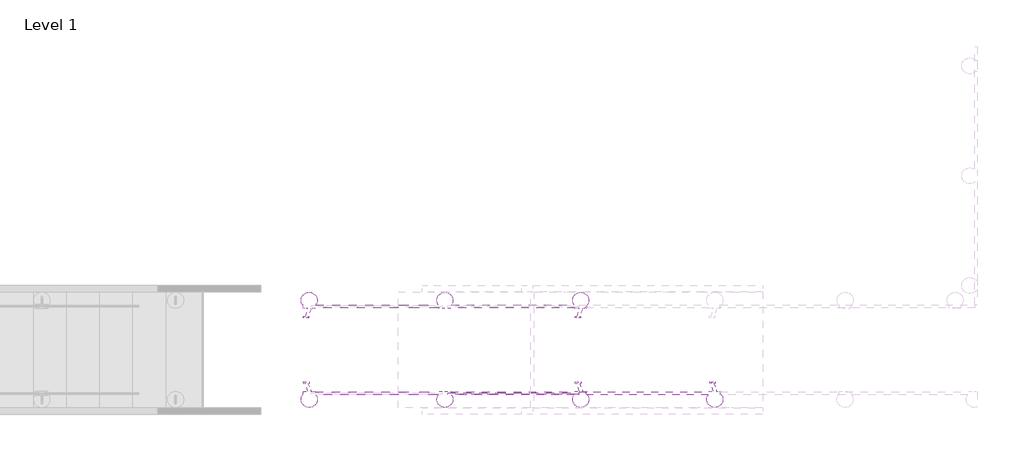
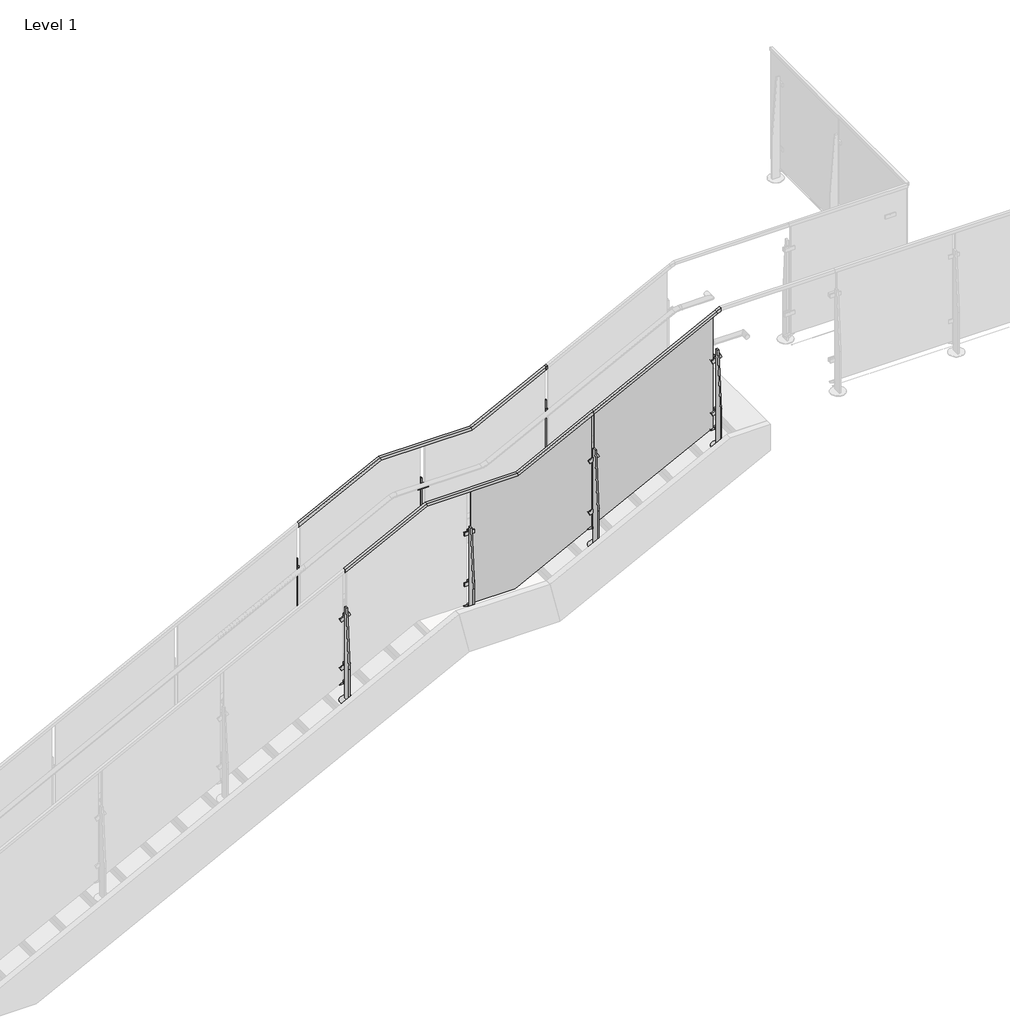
# One storey, part 7 of 37: 4 railings.
"""IFC4 building model written with IfcOpenShell, lengths in millimetres."""

from ifc_helpers import new_model, si_unit, point, frame, frame_2d, origin, place, context, project, spatial, polyline, circle_curve, trimmed, segment, composite_curve, outline, extrude, faceted_brep, transform, mapped, element, save
from components import baluster_landing_panel_viva_solo_upper_standard_glass_fb48f398

model = new_model("IFC4")

# Units and contexts
model_context = context("Model", 3, world=origin())
ifc_project = project(units=[si_unit("LENGTHUNIT", "METRE", prefix="MILLI")], contexts=[model_context])

# Site, building, storey
site = spatial("IfcSite", under=ifc_project)
building = spatial("IfcBuilding", under=site)
storey = spatial("IfcBuildingStorey", under=building, Name="Level 1", Elevation=0.0)

# Railings
placement = place(None, origin())
element("IfcRailing", 1, ObjectType="VIVA-SOLO-Glass-Coor Mount-Landing", at=placement, inside=storey, context=model_context, shape_type="SolidModel", body=[
    faceted_brep([(5228.4873344, -5595.3778686, 2882.4016967), (5228.4873344, -5573.1528686, 2882.4016967), (5228.4873344, -5573.1528686, 2853.9005081), (5228.4873344, -5577.9153686, 2853.9005081), (5228.4873344, -5577.9153686, 2877.0577238), (5228.4873344, -5590.6153686, 2877.0577238), (5228.4873344, -5590.6153686, 2853.9005081), (5228.4873344, -5595.3778686, 2853.9005081), (5926.9873344, -5595.3778686, 3237.9478261), (5926.9873344, -5573.1528686, 3237.9478261), (5933.0798778, -5573.1528686, 3212.5478261), (5933.0798778, -5577.9153686, 3212.5478261), (5928.1296863, -5577.9153686, 3233.1853261), (5928.1296863, -5590.6153686, 3233.1853261), (5933.0798778, -5590.6153686, 3212.5478261), (5933.0798778, -5595.3778686, 3212.5478261), (6708.0373344, -5595.3778686, 3237.9478261), (6708.0373344, -5573.1528686, 3237.9478261), (6714.1298778, -5573.1528686, 3212.5478261), (6714.1298778, -5577.9153686, 3212.5478261), (6709.1796863, -5577.9153686, 3233.1853261), (6709.1796863, -5590.6153686, 3233.1853261), (6714.1298778, -5590.6153686, 3212.5478261), (6714.1298778, -5595.3778686, 3212.5478261), (7362.0873344, -5595.3778686, 3570.8682927), (7362.0873344, -5595.3778686, 3542.3671041), (7362.0873344, -5590.6153686, 3542.3671041), (7362.0873344, -5590.6153686, 3565.5243198), (7362.0873344, -5577.9153686, 3565.5243198), (7362.0873344, -5577.9153686, 3542.3671041), (7362.0873344, -5573.1528686, 3542.3671041), (7362.0873344, -5573.1528686, 3570.8682927)], [[[0, 1, 2, 3, 4, 5, 6, 7]], [[1, 0, 8, 9]], [[2, 1, 9, 10]], [[3, 2, 10, 11]], [[4, 3, 11, 12]], [[5, 4, 12, 13]], [[6, 5, 13, 14]], [[7, 6, 14, 15]], [[0, 7, 15, 8]], [[9, 8, 16, 17]], [[10, 9, 17, 18]], [[11, 10, 18, 19]], [[12, 11, 19, 20]], [[13, 12, 20, 21]], [[14, 13, 21, 22]], [[15, 14, 22, 23]], [[8, 15, 23, 16]], [[24, 25, 26, 27, 28, 29, 30, 31]], [[17, 16, 24, 31]], [[18, 17, 31, 30]], [[19, 18, 30, 29]], [[20, 19, 29, 28]], [[21, 20, 28, 27]], [[22, 21, 27, 26]], [[23, 22, 26, 25]], [[16, 23, 25, 24]]]),
    extrude(outline(polyline([(-5600.1403686, 2907.7478261), (-5600.1403686, 2120.3478261), (-5663.6403686, 2120.3478261), (-5663.6403686, 2374.3478261), (-5625.5403686, 2907.7478261), (-5600.1403686, 2907.7478261)])), frame((6288.9373344, 0.0, 0.0), z_axis=(1.0, 0.0, 0.0), x_axis=(0.0, 1.0, 0.0)), (0.0, 0.0, 1.0), 12.7),
    extrude(outline(composite_curve([segment(trimmed(circle_curve(frame_2d((6295.2873344, -5631.8903686)), 63.5), [point((6295.2873344, -5695.3903686))], [point((6295.2873344, -5568.3903686))], False, "CARTESIAN"), True, "CONTINUOUS"), segment(trimmed(circle_curve(frame_2d((6295.2873344, -5631.8903686)), 63.5), [point((6295.2873344, -5568.3903686))], [point((6295.2873344, -5695.3903686))], False, "CARTESIAN"), True, "CONTINUOUS")], self_intersect=False)), frame((0.0, 0.0, 2120.3478261), z_axis=(0.0, 0.0, 1.0), x_axis=(1.0, 0.0, 0.0)), (0.0, 0.0, 1.0), 3.175),
    extrude(outline(polyline([(6250.8373344, -5590.6153686), (6339.7373344, -5590.6153686), (6339.7373344, -5600.1403686), (6250.8373344, -5600.1403686), (6250.8373344, -5590.6153686)])), frame((0.0, 0.0, 2372.3388955), z_axis=(0.0, 0.0, 1.0), x_axis=(1.0, 0.0, 0.0)), (0.0, 0.0, 1.0), 31.75),
    extrude(outline(polyline([(6250.8373344, -5590.6153686), (6339.7373344, -5590.6153686), (6339.7373344, -5600.1403686), (6250.8373344, -5600.1403686), (6250.8373344, -5590.6153686)])), frame((0.0, 0.0, 2831.6470448), z_axis=(0.0, 0.0, 1.0), x_axis=(1.0, 0.0, 0.0)), (0.0, 0.0, 1.0), 31.75),
    extrude(outline(polyline([(6250.8373344, -5568.3903686), (6339.7373344, -5568.3903686), (6339.7373344, -5577.9153686), (6250.8373344, -5577.9153686), (6250.8373344, -5568.3903686)])), frame((0.0, 0.0, 2372.3388955), z_axis=(0.0, 0.0, 1.0), x_axis=(1.0, 0.0, 0.0)), (0.0, 0.0, 1.0), 31.75),
    extrude(outline(polyline([(6250.8373344, -5568.3903686), (6339.7373344, -5568.3903686), (6339.7373344, -5577.9153686), (6250.8373344, -5577.9153686), (6250.8373344, -5568.3903686)])), frame((0.0, 0.0, 2831.6470448), z_axis=(0.0, 0.0, 1.0), x_axis=(1.0, 0.0, 0.0)), (0.0, 0.0, 1.0), 31.75),
    extrude(outline(polyline([(2196.5478261, 6339.7373344), (2196.5478261, 6250.8373344), (2190.1978261, 6250.8373344), (2168.2831774, 6295.2873344), (2190.1978261, 6339.7373344), (2196.5478261, 6339.7373344)])), frame((0.0, -5590.6153686, 0.0), z_axis=(0.0, 1.0, 0.0), x_axis=(0.0, 0.0, 1.0)), (0.0, 0.0, 1.0), 12.7),
    extrude(outline(composite_curve([segment(trimmed(circle_curve(frame_2d((2388.2138955, 6295.2873344)), 6.35), [point((2388.2138955, 6301.6373344))], [point((2388.2138955, 6288.9373344))], False, "CARTESIAN"), True, "CONTINUOUS"), segment(trimmed(circle_curve(frame_2d((2388.2138955, 6295.2873344)), 6.35), [point((2388.2138955, 6288.9373344))], [point((2388.2138955, 6301.6373344))], False, "CARTESIAN"), True, "CONTINUOUS")], self_intersect=False)), frame((0.0, -5590.6153686, 0.0), z_axis=(0.0, 1.0, 0.0), x_axis=(0.0, 0.0, 1.0)), (0.0, 0.0, 1.0), 12.7),
    extrude(outline(composite_curve([segment(trimmed(circle_curve(frame_2d((2847.5220448, 6295.2873344)), 6.35), [point((2847.5220448, 6301.6373344))], [point((2847.5220448, 6288.9373344))], False, "CARTESIAN"), True, "CONTINUOUS"), segment(trimmed(circle_curve(frame_2d((2847.5220448, 6295.2873344)), 6.35), [point((2847.5220448, 6288.9373344))], [point((2847.5220448, 6301.6373344))], False, "CARTESIAN"), True, "CONTINUOUS")], self_intersect=False)), frame((0.0, -5590.6153686, 0.0), z_axis=(0.0, 1.0, 0.0), x_axis=(0.0, 0.0, 1.0)), (0.0, 0.0, 1.0), 12.7),
    extrude(outline(composite_curve([segment(trimmed(circle_curve(frame_2d((2180.6728261, 6295.2873344)), 11.1125), [point((2180.6728261, 6306.3998344))], [point((2180.6728261, 6284.1748344))], False, "CARTESIAN"), True, "CONTINUOUS"), segment(trimmed(circle_curve(frame_2d((2180.6728261, 6295.2873344)), 11.1125), [point((2180.6728261, 6284.1748344))], [point((2180.6728261, 6306.3998344))], False, "CARTESIAN"), True, "CONTINUOUS")], self_intersect=False)), frame((0.0, -5600.1403686, 0.0), z_axis=(0.0, 1.0, 0.0), x_axis=(0.0, 0.0, 1.0)), (0.0, 0.0, 1.0), 25.4),
    extrude(outline(polyline([(-12.7, 0.0), (-12.7, 3.175), (50.8, 65.0875), (61.9125, 65.0875), (61.9125, 34.925), (58.7375, 34.925), (0.0, 3.175), (0.0, 0.0), (-12.7, 0.0)])), frame((7334.458695, -5506.4778686, 3185.7907086), z_axis=(0.8987940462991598, 0.0, 0.4383711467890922), x_axis=(0.0, -1.0, 0.0)), (0.0, 0.0, 1.0), 12.7),
    extrude(outline(polyline([(-5600.1403686, 3240.6682927), (-5600.1403686, 2385.3913043), (-5663.6403686, 2385.3913043), (-5663.6403686, 2707.2682927), (-5625.5403686, 3240.6682927), (-5600.1403686, 3240.6682927)])), frame((7355.7373344, 0.0, 0.0), z_axis=(1.0, 0.0, 0.0), x_axis=(0.0, 1.0, 0.0)), (0.0, 0.0, 1.0), 12.7),
    extrude(outline(polyline([(0.0, -88.9), (0.0, 0.0), (9.525, 0.0), (9.525, -88.9), (0.0, -88.9)])), frame((7408.9978717, -5568.3903686, 3148.8462876), z_axis=(-0.4383711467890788, 0.0, 0.8987940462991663), x_axis=(0.0, -1.0, 0.0)), (0.0, 0.0, 1.0), 31.75),
    extrude(outline(polyline([(0.0, -88.9), (0.0, 0.0), (9.525, 0.0), (9.525, -88.9), (0.0, -88.9)])), frame((7408.9978717, -5590.6153686, 3148.8462876), z_axis=(-0.4383711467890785, 0.0, 0.8987940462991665), x_axis=(0.0, -1.0, 0.0)), (0.0, 0.0, 1.0), 31.75),
    extrude(outline(polyline([(0.0, -88.9), (0.0, 0.0), (9.525, 0.0), (9.525, -88.9), (0.0, -88.9)])), frame((7408.9978717, -5590.6153686, 2681.3942117), z_axis=(-0.43837114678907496, 0.0, 0.8987940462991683), x_axis=(0.0, -1.0, 0.0)), (0.0, 0.0, 1.0), 31.75),
    extrude(outline(polyline([(0.0, -88.9), (0.0, 0.0), (9.525, 0.0), (9.525, -88.9), (0.0, -88.9)])), frame((7408.9978717, -5568.3903686, 2681.3942117), z_axis=(-0.4383711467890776, 0.0, 0.8987940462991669), x_axis=(0.0, -1.0, 0.0)), (0.0, 0.0, 1.0), 31.75),
    extrude(outline(polyline([(2547.9055266, 7397.8492571), (2553.6128688, 7395.0656003), (2514.6416738, 7315.1628096), (2508.9343317, 7317.9464664), (2508.7231733, 7367.5046114), (2547.9055266, 7397.8492571)])), frame((0.0, -5590.6153686, 0.0), z_axis=(0.0, 1.0, 0.0), x_axis=(0.0, 0.0, 1.0)), (0.0, 0.0, 1.0), 12.7),
    extrude(outline(composite_curve([segment(polyline([(0.0, 0.0), (2.8057896, 0.0)]), True, "CONTINUOUS"), segment(trimmed(circle_curve(frame_2d((26.8875078, 8.0765616)), 25.4), [point((2.8057896, 0.0))], [point((8.7901892, -9.7460941))], True, "CARTESIAN"), True, "CONTINUOUS"), segment(polyline([(8.7901892, -9.7460941), (6.4034746, -11.1240644)]), True, "CONTINUOUS"), segment(trimmed(circle_curve(frame_2d((24.5007933, 6.6985913)), 25.4), [point((6.4034746, -11.1240644))], [point((0.0, 0.0))], False, "CARTESIAN"), True, "CONTINUOUS")], self_intersect=False)), frame((7318.5375775, -5506.577115, 3174.9775099), z_axis=(0.8987940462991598, 0.0, 0.4383711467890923), x_axis=(-0.37964054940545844, 0.500000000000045, 0.7783784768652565)), (0.0, 0.0, 1.0), 50.8),
    extrude(outline(composite_curve([segment(trimmed(circle_curve(frame_2d((7362.0873344, -5631.8903686)), 63.5), [point((7362.0873344, -5695.3903686))], [point((7362.0873344, -5568.3903686))], False, "CARTESIAN"), True, "CONTINUOUS"), segment(trimmed(circle_curve(frame_2d((7362.0873344, -5631.8903686)), 63.5), [point((7362.0873344, -5568.3903686))], [point((7362.0873344, -5695.3903686))], False, "CARTESIAN"), True, "CONTINUOUS")], self_intersect=False)), frame((0.0, 0.0, 2385.3913043), z_axis=(0.0, 0.0, 1.0), x_axis=(1.0, 0.0, 0.0)), (0.0, 0.0, 1.0), 3.175),
    extrude(outline(composite_curve([segment(trimmed(circle_curve(frame_2d((2677.2373043, 7362.0873344)), 6.35), [point((2677.2373043, 7368.4373344))], [point((2677.2373043, 7355.7373344))], False, "CARTESIAN"), True, "CONTINUOUS"), segment(trimmed(circle_curve(frame_2d((2677.2373043, 7362.0873344)), 6.35), [point((2677.2373043, 7355.7373344))], [point((2677.2373043, 7368.4373344))], False, "CARTESIAN"), True, "CONTINUOUS")], self_intersect=False)), frame((0.0, -5590.6153686, 0.0), z_axis=(0.0, 1.0, 0.0), x_axis=(0.0, 0.0, 1.0)), (0.0, 0.0, 1.0), 12.7),
    extrude(outline(composite_curve([segment(trimmed(circle_curve(frame_2d((3143.6290456, 7362.0873344)), 6.35), [point((3143.6290456, 7368.4373344))], [point((3143.6290456, 7355.7373344))], False, "CARTESIAN"), True, "CONTINUOUS"), segment(trimmed(circle_curve(frame_2d((3143.6290456, 7362.0873344)), 6.35), [point((3143.6290456, 7355.7373344))], [point((3143.6290456, 7368.4373344))], False, "CARTESIAN"), True, "CONTINUOUS")], self_intersect=False)), frame((0.0, -5590.6153686, 0.0), z_axis=(0.0, 1.0, 0.0), x_axis=(0.0, 0.0, 1.0)), (0.0, 0.0, 1.0), 12.7),
    extrude(outline(composite_curve([segment(trimmed(circle_curve(frame_2d((2519.9181633, 7362.0873344)), 11.1125), [point((2519.9181633, 7373.1998344))], [point((2519.9181633, 7350.9748344))], False, "CARTESIAN"), True, "CONTINUOUS"), segment(trimmed(circle_curve(frame_2d((2519.9181633, 7362.0873344)), 11.1125), [point((2519.9181633, 7350.9748344))], [point((2519.9181633, 7373.1998344))], False, "CARTESIAN"), True, "CONTINUOUS")], self_intersect=False)), frame((0.0, -5600.1403686, 0.0), z_axis=(0.0, 1.0, 0.0), x_axis=(0.0, 0.0, 1.0)), (0.0, 0.0, 1.0), 25.4),
    extrude(outline(polyline([(-12.7, 0.0), (-12.7, 3.175), (50.8, 65.0874999), (61.9125, 65.0874999), (61.9125, 34.9249999), (58.7375, 34.9249999), (0.0, 3.175), (0.0, 0.0), (-12.7, 0.0)])), frame((5200.858695, -5506.4778686, 2497.3241126), z_axis=(0.8987940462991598, 0.0, 0.4383711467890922), x_axis=(0.0, -1.0, 0.0)), (0.0, 0.0, 1.0), 12.7),
    extrude(outline(polyline([(-5600.1403686, 2552.2016967), (-5600.1403686, 1722.7826087), (-5663.6403686, 1722.7826087), (-5663.6403686, 2018.8016967), (-5625.5403686, 2552.2016967), (-5600.1403686, 2552.2016967)])), frame((5222.1373344, 0.0, 0.0), z_axis=(1.0, 0.0, 0.0), x_axis=(0.0, 1.0, 0.0)), (0.0, 0.0, 1.0), 12.7),
    extrude(outline(polyline([(0.0, -88.9), (0.0, 0.0), (9.525, 0.0), (9.525, -88.9), (0.0, -88.9)])), frame((5275.3978717, -5568.3903686, 2460.3796916), z_axis=(-0.4383711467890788, 0.0, 0.8987940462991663), x_axis=(0.0, -1.0, 0.0)), (0.0, 0.0, 1.0), 31.75),
    extrude(outline(polyline([(0.0, -88.9), (0.0, 0.0), (9.525, 0.0), (9.525, -88.9), (0.0, -88.9)])), frame((5275.3978717, -5590.6153686, 2460.3796916), z_axis=(-0.4383711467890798, 0.0, 0.8987940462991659), x_axis=(0.0, -1.0, 0.0)), (0.0, 0.0, 1.0), 31.75),
    extrude(outline(polyline([(0.0, -88.9), (0.0, 0.0), (9.525, 0.0), (9.525, -88.9), (0.0, -88.9)])), frame((5275.3978717, -5590.6153686, 2018.785516), z_axis=(-0.43837114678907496, 0.0, 0.8987940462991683), x_axis=(0.0, -1.0, 0.0)), (0.0, 0.0, 1.0), 31.75),
    extrude(outline(polyline([(0.0, -88.9), (0.0, 0.0), (9.525, 0.0), (9.525, -88.9), (0.0, -88.9)])), frame((5275.3978717, -5568.3903686, 2018.785516), z_axis=(-0.4383711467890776, 0.0, 0.8987940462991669), x_axis=(0.0, -1.0, 0.0)), (0.0, 0.0, 1.0), 31.75),
    extrude(outline(polyline([(1885.2968309, 5264.2492571), (1891.0041731, 5261.4656003), (1852.0329782, 5181.5628096), (1846.325636, 5184.3464664), (1846.1144777, 5233.9046114), (1885.2968309, 5264.2492571)])), frame((0.0, -5590.6153686, 0.0), z_axis=(0.0, 1.0, 0.0), x_axis=(0.0, 0.0, 1.0)), (0.0, 0.0, 1.0), 12.7),
    extrude(outline(composite_curve([segment(polyline([(0.0, 0.0), (2.8057896, 0.0)]), True, "CONTINUOUS"), segment(trimmed(circle_curve(frame_2d((26.8875078, 8.0765616)), 25.4), [point((2.8057896, 0.0))], [point((8.7901892, -9.7460941))], True, "CARTESIAN"), True, "CONTINUOUS"), segment(polyline([(8.7901892, -9.7460941), (6.4034746, -11.1240644)]), True, "CONTINUOUS"), segment(trimmed(circle_curve(frame_2d((24.5007933, 6.6985913)), 25.4), [point((6.4034746, -11.1240644))], [point((0.0, 0.0))], False, "CARTESIAN"), True, "CONTINUOUS")], self_intersect=False)), frame((5184.9375775, -5506.577115, 2486.5109139), z_axis=(0.8987940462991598, 0.0, 0.4383711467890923), x_axis=(-0.37964054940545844, 0.500000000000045, 0.7783784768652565)), (0.0, 0.0, 1.0), 50.8),
    extrude(outline(composite_curve([segment(trimmed(circle_curve(frame_2d((5228.4873344, -5631.8903686)), 63.5), [point((5228.4873344, -5695.3903686))], [point((5228.4873344, -5568.3903686))], False, "CARTESIAN"), True, "CONTINUOUS"), segment(trimmed(circle_curve(frame_2d((5228.4873344, -5631.8903686)), 63.5), [point((5228.4873344, -5568.3903686))], [point((5228.4873344, -5695.3903686))], False, "CARTESIAN"), True, "CONTINUOUS")], self_intersect=False)), frame((0.0, 0.0, 1722.7826087), z_axis=(0.0, 0.0, 1.0), x_axis=(1.0, 0.0, 0.0)), (0.0, 0.0, 1.0), 3.175),
    extrude(outline(composite_curve([segment(trimmed(circle_curve(frame_2d((2014.6286087, 5228.4873344)), 6.35), [point((2014.6286087, 5234.8373344))], [point((2014.6286087, 5222.1373344))], False, "CARTESIAN"), True, "CONTINUOUS"), segment(trimmed(circle_curve(frame_2d((2014.6286087, 5228.4873344)), 6.35), [point((2014.6286087, 5222.1373344))], [point((2014.6286087, 5234.8373344))], False, "CARTESIAN"), True, "CONTINUOUS")], self_intersect=False)), frame((0.0, -5590.6153686, 0.0), z_axis=(0.0, 1.0, 0.0), x_axis=(0.0, 0.0, 1.0)), (0.0, 0.0, 1.0), 12.7),
    extrude(outline(composite_curve([segment(trimmed(circle_curve(frame_2d((2455.1624496, 5228.4873344)), 6.35), [point((2455.1624496, 5234.8373344))], [point((2455.1624496, 5222.1373344))], False, "CARTESIAN"), True, "CONTINUOUS"), segment(trimmed(circle_curve(frame_2d((2455.1624496, 5228.4873344)), 6.35), [point((2455.1624496, 5222.1373344))], [point((2455.1624496, 5234.8373344))], False, "CARTESIAN"), True, "CONTINUOUS")], self_intersect=False)), frame((0.0, -5590.6153686, 0.0), z_axis=(0.0, 1.0, 0.0), x_axis=(0.0, 0.0, 1.0)), (0.0, 0.0, 1.0), 12.7),
    extrude(outline(composite_curve([segment(trimmed(circle_curve(frame_2d((1857.3094676, 5228.4873344)), 11.1125), [point((1857.3094676, 5239.5998344))], [point((1857.3094676, 5217.3748344))], False, "CARTESIAN"), True, "CONTINUOUS"), segment(trimmed(circle_curve(frame_2d((1857.3094676, 5228.4873344)), 11.1125), [point((1857.3094676, 5217.3748344))], [point((1857.3094676, 5239.5998344))], False, "CARTESIAN"), True, "CONTINUOUS")], self_intersect=False)), frame((0.0, -5600.1403686, 0.0), z_axis=(0.0, 1.0, 0.0), x_axis=(0.0, 0.0, 1.0)), (0.0, 0.0, 1.0), 25.4),
])
element("IfcRailing", 2, ObjectType="VIVA-SOLO-Glass-Coor Mount-Stair_Right_Upper", at=placement, inside=storey, context=model_context, shape_type="SolidModel", body=[
    faceted_brep([(7349.3873344, -5595.3778686, 3564.4038176), (7349.3873344, -5573.1528686, 3564.4038176), (7349.3873344, -5573.1528686, 3535.902629), (7349.3873344, -5577.9153686, 3535.902629), (7349.3873344, -5577.9153686, 3559.0598447), (7349.3873344, -5590.6153686, 3559.0598447), (7349.3873344, -5590.6153686, 3535.902629), (7349.3873344, -5595.3778686, 3535.902629), (8416.1873344, -5595.3778686, 4107.4197243), (8416.1873344, -5573.1528686, 4107.4197243), (8427.7094971, -5573.1528686, 4084.7834754), (8427.7094971, -5577.9153686, 4084.7834754), (8418.3477399, -5577.9153686, 4103.1754276), (8418.3477399, -5590.6153686, 4103.1754276), (8427.7094971, -5590.6153686, 4084.7834754), (8427.7094971, -5595.3778686, 4084.7834754), (8455.6367094, -5595.3778686, 4127.5), (8455.6367094, -5595.3778686, 4098.9988114), (8455.6367094, -5590.6153686, 4098.9988114), (8455.6367094, -5590.6153686, 4122.1560271), (8455.6367094, -5577.9153686, 4122.1560271), (8455.6367094, -5577.9153686, 4098.9988114), (8455.6367094, -5573.1528686, 4098.9988114), (8455.6367094, -5573.1528686, 4127.5)], [[[0, 1, 2, 3, 4, 5, 6, 7]], [[1, 0, 8, 9]], [[2, 1, 9, 10]], [[3, 2, 10, 11]], [[4, 3, 11, 12]], [[5, 4, 12, 13]], [[6, 5, 13, 14]], [[7, 6, 14, 15]], [[0, 7, 15, 8]], [[16, 17, 18, 19, 20, 21, 22, 23]], [[9, 8, 16, 23]], [[10, 9, 23, 22]], [[11, 10, 22, 21]], [[12, 11, 21, 20]], [[13, 12, 20, 19]], [[14, 13, 19, 18]], [[15, 14, 18, 17]], [[8, 15, 17, 16]]]),
    extrude(outline(polyline([(4089.1567741, 8391.170381), (3571.9987678, 7375.170381), (2544.2557794, 7375.170381), (3061.4137858, 8391.170381), (4089.1567741, 8391.170381)])), frame((0.0, -5590.6153686, 0.0), z_axis=(0.0, 1.0, 0.0), x_axis=(0.0, 0.0, 1.0)), (0.0, 0.0, 1.0), 12.7),
    extrude(outline(polyline([(-12.7, 0.0), (-12.7, 3.175), (50.8, 65.0875), (61.9125, 65.0875), (61.9125, 34.925), (58.7375, 34.925), (0.0, 3.175), (0.0, 0.0), (-12.7, 0.0)])), frame((8388.558695, -5506.4778686, 3722.3421402), z_axis=(0.8987940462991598, 0.0, 0.4383711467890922), x_axis=(0.0, -1.0, 0.0)), (0.0, 0.0, 1.0), 12.7),
    extrude(outline(polyline([(-5600.1403686, 3777.2197243), (-5600.1403686, 2915.4782609), (-5663.6403686, 2915.4782609), (-5663.6403686, 3243.8197243), (-5625.5403686, 3777.2197243), (-5600.1403686, 3777.2197243)])), frame((8409.8373344, 0.0, 0.0), z_axis=(1.0, 0.0, 0.0), x_axis=(0.0, 1.0, 0.0)), (0.0, 0.0, 1.0), 12.7),
    extrude(outline(polyline([(0.0, -88.9), (0.0, 0.0), (9.525, 0.0), (9.525, -88.9), (0.0, -88.9)])), frame((8463.0978717, -5568.3903686, 3685.3977192), z_axis=(-0.4383711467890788, 0.0, 0.8987940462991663), x_axis=(0.0, -1.0, 0.0)), (0.0, 0.0, 1.0), 31.75),
    extrude(outline(polyline([(0.0, -88.9), (0.0, 0.0), (9.525, 0.0), (9.525, -88.9), (0.0, -88.9)])), frame((8463.0978717, -5590.6153686, 3685.3977192), z_axis=(-0.4383711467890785, 0.0, 0.8987940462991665), x_axis=(0.0, -1.0, 0.0)), (0.0, 0.0, 1.0), 31.75),
    extrude(outline(polyline([(0.0, -88.9), (0.0, 0.0), (9.525, 0.0), (9.525, -88.9), (0.0, -88.9)])), frame((8463.0978717, -5590.6153686, 3211.4811682), z_axis=(-0.43837114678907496, 0.0, 0.8987940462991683), x_axis=(0.0, -1.0, 0.0)), (0.0, 0.0, 1.0), 31.75),
    extrude(outline(polyline([(0.0, -88.9), (0.0, 0.0), (9.525, 0.0), (9.525, -88.9), (0.0, -88.9)])), frame((8463.0978717, -5568.3903686, 3211.4811682), z_axis=(-0.4383711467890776, 0.0, 0.8987940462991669), x_axis=(0.0, -1.0, 0.0)), (0.0, 0.0, 1.0), 31.75),
    extrude(outline(polyline([(3077.9924831, 8451.9492571), (3083.6998253, 8449.1656003), (3044.7286304, 8369.2628096), (3039.0212882, 8372.0464664), (3038.8101298, 8421.6046114), (3077.9924831, 8451.9492571)])), frame((0.0, -5590.6153686, 0.0), z_axis=(0.0, 1.0, 0.0), x_axis=(0.0, 0.0, 1.0)), (0.0, 0.0, 1.0), 12.7),
    extrude(outline(composite_curve([segment(polyline([(0.0, 0.0), (2.8057896, 0.0)]), True, "CONTINUOUS"), segment(trimmed(circle_curve(frame_2d((26.8875078, 8.0765616)), 25.4), [point((2.8057896, 0.0))], [point((8.7901892, -9.7460941))], True, "CARTESIAN"), True, "CONTINUOUS"), segment(polyline([(8.7901892, -9.7460941), (6.4034746, -11.1240644)]), True, "CONTINUOUS"), segment(trimmed(circle_curve(frame_2d((24.5007933, 6.6985913)), 25.4), [point((6.4034746, -11.1240644))], [point((0.0, 0.0))], False, "CARTESIAN"), True, "CONTINUOUS")], self_intersect=False)), frame((8372.6375775, -5506.577115, 3711.5289415), z_axis=(0.8987940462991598, 0.0, 0.4383711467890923), x_axis=(-0.379640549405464, 0.500000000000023, 0.7783784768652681)), (0.0, 0.0, 1.0), 50.8),
    extrude(outline(composite_curve([segment(trimmed(circle_curve(frame_2d((8416.1873344, -5631.8903686)), 63.5), [point((8416.1873344, -5695.3903686))], [point((8416.1873344, -5568.3903686))], False, "CARTESIAN"), True, "CONTINUOUS"), segment(trimmed(circle_curve(frame_2d((8416.1873344, -5631.8903686)), 63.5), [point((8416.1873344, -5568.3903686))], [point((8416.1873344, -5695.3903686))], False, "CARTESIAN"), True, "CONTINUOUS")], self_intersect=False)), frame((0.0, 0.0, 2915.4782609), z_axis=(0.0, 0.0, 1.0), x_axis=(1.0, 0.0, 0.0)), (0.0, 0.0, 1.0), 3.175),
    extrude(outline(composite_curve([segment(trimmed(circle_curve(frame_2d((3207.3242609, 8416.1873344)), 6.35), [point((3207.3242609, 8422.5373344))], [point((3207.3242609, 8409.8373344))], False, "CARTESIAN"), True, "CONTINUOUS"), segment(trimmed(circle_curve(frame_2d((3207.3242609, 8416.1873344)), 6.35), [point((3207.3242609, 8409.8373344))], [point((3207.3242609, 8422.5373344))], False, "CARTESIAN"), True, "CONTINUOUS")], self_intersect=False)), frame((0.0, -5590.6153686, 0.0), z_axis=(0.0, 1.0, 0.0), x_axis=(0.0, 0.0, 1.0)), (0.0, 0.0, 1.0), 12.7),
    extrude(outline(composite_curve([segment(trimmed(circle_curve(frame_2d((3680.1804772, 8416.1873344)), 6.35), [point((3680.1804772, 8422.5373344))], [point((3680.1804772, 8409.8373344))], False, "CARTESIAN"), True, "CONTINUOUS"), segment(trimmed(circle_curve(frame_2d((3680.1804772, 8416.1873344)), 6.35), [point((3680.1804772, 8409.8373344))], [point((3680.1804772, 8422.5373344))], False, "CARTESIAN"), True, "CONTINUOUS")], self_intersect=False)), frame((0.0, -5590.6153686, 0.0), z_axis=(0.0, 1.0, 0.0), x_axis=(0.0, 0.0, 1.0)), (0.0, 0.0, 1.0), 12.7),
    extrude(outline(composite_curve([segment(trimmed(circle_curve(frame_2d((3050.0051198, 8416.1873344)), 11.1125), [point((3050.0051198, 8427.2998344))], [point((3050.0051198, 8405.0748344))], False, "CARTESIAN"), True, "CONTINUOUS"), segment(trimmed(circle_curve(frame_2d((3050.0051198, 8416.1873344)), 11.1125), [point((3050.0051198, 8405.0748344))], [point((3050.0051198, 8427.2998344))], False, "CARTESIAN"), True, "CONTINUOUS")], self_intersect=False)), frame((0.0, -5600.1403686, 0.0), z_axis=(0.0, 1.0, 0.0), x_axis=(0.0, 0.0, 1.0)), (0.0, 0.0, 1.0), 25.4),
])
element("IfcRailing", 3, ObjectType="VIVA-SOLO-Glass-Coor Mount-Landing", at=placement, inside=storey, context=model_context, shape_type="SolidModel", body=[
    faceted_brep([(5228.4873344, -4909.5778686, 2882.4016967), (5228.4873344, -4887.3528686, 2882.4016967), (5228.4873344, -4887.3528686, 2853.9005081), (5228.4873344, -4892.1153686, 2853.9005081), (5228.4873344, -4892.1153686, 2877.0577238), (5228.4873344, -4904.8153686, 2877.0577238), (5228.4873344, -4904.8153686, 2853.9005081), (5228.4873344, -4909.5778686, 2853.9005081), (5926.9873344, -4909.5778686, 3237.9478261), (5926.9873344, -4887.3528686, 3237.9478261), (5933.0798778, -4887.3528686, 3212.5478261), (5933.0798778, -4892.1153686, 3212.5478261), (5928.1296863, -4892.1153686, 3233.1853261), (5928.1296863, -4904.8153686, 3233.1853261), (5933.0798778, -4904.8153686, 3212.5478261), (5933.0798778, -4909.5778686, 3212.5478261), (6708.0373344, -4909.5778686, 3237.9478261), (6708.0373344, -4887.3528686, 3237.9478261), (6714.1298778, -4887.3528686, 3212.5478261), (6714.1298778, -4892.1153686, 3212.5478261), (6709.1796863, -4892.1153686, 3233.1853261), (6709.1796863, -4904.8153686, 3233.1853261), (6714.1298778, -4904.8153686, 3212.5478261), (6714.1298778, -4909.5778686, 3212.5478261), (7362.0873344, -4909.5778686, 3570.8682927), (7362.0873344, -4909.5778686, 3542.3671041), (7362.0873344, -4904.8153686, 3542.3671041), (7362.0873344, -4904.8153686, 3565.5243198), (7362.0873344, -4892.1153686, 3565.5243198), (7362.0873344, -4892.1153686, 3542.3671041), (7362.0873344, -4887.3528686, 3542.3671041), (7362.0873344, -4887.3528686, 3570.8682927)], [[[0, 1, 2, 3, 4, 5, 6, 7]], [[1, 0, 8, 9]], [[2, 1, 9, 10]], [[3, 2, 10, 11]], [[4, 3, 11, 12]], [[5, 4, 12, 13]], [[6, 5, 13, 14]], [[7, 6, 14, 15]], [[0, 7, 15, 8]], [[9, 8, 16, 17]], [[10, 9, 17, 18]], [[11, 10, 18, 19]], [[12, 11, 19, 20]], [[13, 12, 20, 21]], [[14, 13, 21, 22]], [[15, 14, 22, 23]], [[8, 15, 23, 16]], [[24, 25, 26, 27, 28, 29, 30, 31]], [[17, 16, 24, 31]], [[18, 17, 31, 30]], [[19, 18, 30, 29]], [[20, 19, 29, 28]], [[21, 20, 28, 27]], [[22, 21, 27, 26]], [[23, 22, 26, 25]], [[16, 23, 25, 24]]]),
    extrude(outline(polyline([(-4882.5903686, 2907.7478261), (-4857.1903686, 2907.7478261), (-4819.0903686, 2374.3478261), (-4819.0903686, 2120.3478261), (-4882.5903686, 2120.3478261), (-4882.5903686, 2907.7478261)])), frame((6288.9373344, 0.0, 0.0), z_axis=(1.0, 0.0, 0.0), x_axis=(0.0, 1.0, 0.0)), (0.0, 0.0, 1.0), 12.7),
    extrude(outline(composite_curve([segment(trimmed(circle_curve(frame_2d((6295.2873344, -4850.8403686)), 63.5), [point((6295.2873344, -4787.3403686))], [point((6295.2873344, -4914.3403686))], False, "CARTESIAN"), True, "CONTINUOUS"), segment(trimmed(circle_curve(frame_2d((6295.2873344, -4850.8403686)), 63.5), [point((6295.2873344, -4914.3403686))], [point((6295.2873344, -4787.3403686))], False, "CARTESIAN"), True, "CONTINUOUS")], self_intersect=False)), frame((0.0, 0.0, 2120.3478261), z_axis=(0.0, 0.0, 1.0), x_axis=(1.0, 0.0, 0.0)), (0.0, 0.0, 1.0), 3.175),
    extrude(outline(polyline([(6250.8373344, -4892.1153686), (6250.8373344, -4882.5903686), (6339.7373344, -4882.5903686), (6339.7373344, -4892.1153686), (6250.8373344, -4892.1153686)])), frame((0.0, 0.0, 2372.3388955), z_axis=(0.0, 0.0, 1.0), x_axis=(1.0, 0.0, 0.0)), (0.0, 0.0, 1.0), 31.75),
    extrude(outline(polyline([(6250.8373344, -4892.1153686), (6250.8373344, -4882.5903686), (6339.7373344, -4882.5903686), (6339.7373344, -4892.1153686), (6250.8373344, -4892.1153686)])), frame((0.0, 0.0, 2831.6470448), z_axis=(0.0, 0.0, 1.0), x_axis=(1.0, 0.0, 0.0)), (0.0, 0.0, 1.0), 31.75),
    extrude(outline(polyline([(6250.8373344, -4914.3403686), (6250.8373344, -4904.8153686), (6339.7373344, -4904.8153686), (6339.7373344, -4914.3403686), (6250.8373344, -4914.3403686)])), frame((0.0, 0.0, 2372.3388955), z_axis=(0.0, 0.0, 1.0), x_axis=(1.0, 0.0, 0.0)), (0.0, 0.0, 1.0), 31.75),
    extrude(outline(polyline([(6250.8373344, -4914.3403686), (6250.8373344, -4904.8153686), (6339.7373344, -4904.8153686), (6339.7373344, -4914.3403686), (6250.8373344, -4914.3403686)])), frame((0.0, 0.0, 2831.6470448), z_axis=(0.0, 0.0, 1.0), x_axis=(1.0, 0.0, 0.0)), (0.0, 0.0, 1.0), 31.75),
    extrude(outline(polyline([(2196.5478261, 6339.7373344), (2196.5478261, 6250.8373344), (2190.1978261, 6250.8373344), (2168.2831774, 6295.2873344), (2190.1978261, 6339.7373344), (2196.5478261, 6339.7373344)])), frame((0.0, -4904.8153686, 0.0), z_axis=(0.0, 1.0, 0.0), x_axis=(0.0, 0.0, 1.0)), (0.0, 0.0, 1.0), 12.7),
    extrude(outline(composite_curve([segment(trimmed(circle_curve(frame_2d((2388.2138955, 6295.2873344)), 6.35), [point((2388.2138955, 6301.6373344))], [point((2388.2138955, 6288.9373344))], False, "CARTESIAN"), True, "CONTINUOUS"), segment(trimmed(circle_curve(frame_2d((2388.2138955, 6295.2873344)), 6.35), [point((2388.2138955, 6288.9373344))], [point((2388.2138955, 6301.6373344))], False, "CARTESIAN"), True, "CONTINUOUS")], self_intersect=False)), frame((0.0, -4904.8153686, 0.0), z_axis=(0.0, 1.0, 0.0), x_axis=(0.0, 0.0, 1.0)), (0.0, 0.0, 1.0), 12.7),
    extrude(outline(composite_curve([segment(trimmed(circle_curve(frame_2d((2847.5220448, 6295.2873344)), 6.35), [point((2847.5220448, 6301.6373344))], [point((2847.5220448, 6288.9373344))], False, "CARTESIAN"), True, "CONTINUOUS"), segment(trimmed(circle_curve(frame_2d((2847.5220448, 6295.2873344)), 6.35), [point((2847.5220448, 6288.9373344))], [point((2847.5220448, 6301.6373344))], False, "CARTESIAN"), True, "CONTINUOUS")], self_intersect=False)), frame((0.0, -4904.8153686, 0.0), z_axis=(0.0, 1.0, 0.0), x_axis=(0.0, 0.0, 1.0)), (0.0, 0.0, 1.0), 12.7),
    extrude(outline(composite_curve([segment(trimmed(circle_curve(frame_2d((2180.6728261, 6295.2873344)), 11.1125), [point((2180.6728261, 6306.3998344))], [point((2180.6728261, 6284.1748344))], False, "CARTESIAN"), True, "CONTINUOUS"), segment(trimmed(circle_curve(frame_2d((2180.6728261, 6295.2873344)), 11.1125), [point((2180.6728261, 6284.1748344))], [point((2180.6728261, 6306.3998344))], False, "CARTESIAN"), True, "CONTINUOUS")], self_intersect=False)), frame((0.0, -4907.9903686, 0.0), z_axis=(0.0, 1.0, 0.0), x_axis=(0.0, 0.0, 1.0)), (0.0, 0.0, 1.0), 25.4),
    extrude(outline(polyline([(-12.7, 0.0), (0.0, 0.0), (0.0, -3.175), (58.7375, -34.925), (61.9125, -34.925), (61.9125, -65.0875), (50.8, -65.0875), (-12.7, -3.175), (-12.7, 0.0)])), frame((7334.458695, -4976.2528686, 3185.7907086), z_axis=(0.8987940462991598, 0.0, 0.4383711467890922), x_axis=(0.0, 1.0, 0.0)), (0.0, 0.0, 1.0), 12.7),
    extrude(outline(polyline([(-4882.5903686, 3240.6682927), (-4857.1903686, 3240.6682927), (-4819.0903686, 2707.2682927), (-4819.0903686, 2385.3913043), (-4882.5903686, 2385.3913043), (-4882.5903686, 3240.6682927)])), frame((7355.7373344, 0.0, 0.0), z_axis=(1.0, 0.0, 0.0), x_axis=(0.0, 1.0, 0.0)), (0.0, 0.0, 1.0), 12.7),
    extrude(outline(polyline([(0.0, 88.9), (9.525, 88.9), (9.525, 0.0), (0.0, 0.0), (0.0, 88.9)])), frame((7408.9978717, -4914.3403686, 3148.8462876), z_axis=(-0.4383711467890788, 0.0, 0.8987940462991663), x_axis=(0.0, 1.0, 0.0)), (0.0, 0.0, 1.0), 31.75),
    extrude(outline(polyline([(0.0, 88.9), (9.525, 88.9), (9.525, 0.0), (0.0, 0.0), (0.0, 88.9)])), frame((7408.9978717, -4892.1153686, 3148.8462876), z_axis=(-0.4383711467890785, 0.0, 0.8987940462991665), x_axis=(0.0, 1.0, 0.0)), (0.0, 0.0, 1.0), 31.75),
    extrude(outline(polyline([(0.0, 88.9), (9.525, 88.9), (9.525, 0.0), (0.0, 0.0), (0.0, 88.9)])), frame((7408.9978717, -4892.1153686, 2681.3942117), z_axis=(-0.43837114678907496, 0.0, 0.8987940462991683), x_axis=(0.0, 1.0, 0.0)), (0.0, 0.0, 1.0), 31.75),
    extrude(outline(polyline([(0.0, 88.9), (9.525, 88.9), (9.525, 0.0), (0.0, 0.0), (0.0, 88.9)])), frame((7408.9978717, -4914.3403686, 2681.3942117), z_axis=(-0.4383711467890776, 0.0, 0.8987940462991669), x_axis=(0.0, 1.0, 0.0)), (0.0, 0.0, 1.0), 31.75),
    extrude(outline(polyline([(2547.9055266, 7397.8492571), (2553.6128688, 7395.0656003), (2514.6416738, 7315.1628096), (2508.9343317, 7317.9464664), (2508.7231733, 7367.5046114), (2547.9055266, 7397.8492571)])), frame((0.0, -4904.8153686, 0.0), z_axis=(0.0, 1.0, 0.0), x_axis=(0.0, 0.0, 1.0)), (0.0, 0.0, 1.0), 12.7),
    extrude(outline(composite_curve([segment(trimmed(circle_curve(frame_2d((24.5007933, -6.6985914)), 25.4), [point((0.0, 0.0))], [point((6.4034746, 11.1240644))], False, "CARTESIAN"), True, "CONTINUOUS"), segment(polyline([(6.4034746, 11.1240644), (8.7901892, 9.7460941)]), True, "CONTINUOUS"), segment(trimmed(circle_curve(frame_2d((26.8875078, -8.0765617)), 25.4), [point((8.7901892, 9.7460941))], [point((2.8057896, 0.0))], True, "CARTESIAN"), True, "CONTINUOUS"), segment(polyline([(2.8057896, 0.0), (0.0, 0.0)]), True, "CONTINUOUS")], self_intersect=False)), frame((7318.5375775, -4976.1536223, 3174.9775099), z_axis=(0.8987940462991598, 0.0, 0.4383711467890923), x_axis=(-0.379640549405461, -0.5000000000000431, 0.7783784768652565)), (0.0, 0.0, 1.0), 50.8),
    extrude(outline(composite_curve([segment(trimmed(circle_curve(frame_2d((7362.0873344, -4850.8403686)), 63.5), [point((7362.0873344, -4787.3403686))], [point((7362.0873344, -4914.3403686))], False, "CARTESIAN"), True, "CONTINUOUS"), segment(trimmed(circle_curve(frame_2d((7362.0873344, -4850.8403686)), 63.5), [point((7362.0873344, -4914.3403686))], [point((7362.0873344, -4787.3403686))], False, "CARTESIAN"), True, "CONTINUOUS")], self_intersect=False)), frame((0.0, 0.0, 2385.3913043), z_axis=(0.0, 0.0, 1.0), x_axis=(1.0, 0.0, 0.0)), (0.0, 0.0, 1.0), 3.175),
    extrude(outline(composite_curve([segment(trimmed(circle_curve(frame_2d((2677.2373043, 7362.0873344)), 6.35), [point((2677.2373043, 7368.4373344))], [point((2677.2373043, 7355.7373344))], False, "CARTESIAN"), True, "CONTINUOUS"), segment(trimmed(circle_curve(frame_2d((2677.2373043, 7362.0873344)), 6.35), [point((2677.2373043, 7355.7373344))], [point((2677.2373043, 7368.4373344))], False, "CARTESIAN"), True, "CONTINUOUS")], self_intersect=False)), frame((0.0, -4904.8153686, 0.0), z_axis=(0.0, 1.0, 0.0), x_axis=(0.0, 0.0, 1.0)), (0.0, 0.0, 1.0), 12.7),
    extrude(outline(composite_curve([segment(trimmed(circle_curve(frame_2d((3143.6290456, 7362.0873344)), 6.35), [point((3143.6290456, 7368.4373344))], [point((3143.6290456, 7355.7373344))], False, "CARTESIAN"), True, "CONTINUOUS"), segment(trimmed(circle_curve(frame_2d((3143.6290456, 7362.0873344)), 6.35), [point((3143.6290456, 7355.7373344))], [point((3143.6290456, 7368.4373344))], False, "CARTESIAN"), True, "CONTINUOUS")], self_intersect=False)), frame((0.0, -4904.8153686, 0.0), z_axis=(0.0, 1.0, 0.0), x_axis=(0.0, 0.0, 1.0)), (0.0, 0.0, 1.0), 12.7),
    extrude(outline(composite_curve([segment(trimmed(circle_curve(frame_2d((2519.9181633, 7362.0873344)), 11.1125), [point((2519.9181633, 7373.1998344))], [point((2519.9181633, 7350.9748344))], False, "CARTESIAN"), True, "CONTINUOUS"), segment(trimmed(circle_curve(frame_2d((2519.9181633, 7362.0873344)), 11.1125), [point((2519.9181633, 7350.9748344))], [point((2519.9181633, 7373.1998344))], False, "CARTESIAN"), True, "CONTINUOUS")], self_intersect=False)), frame((0.0, -4907.9903686, 0.0), z_axis=(0.0, 1.0, 0.0), x_axis=(0.0, 0.0, 1.0)), (0.0, 0.0, 1.0), 25.4),
    extrude(outline(polyline([(-12.7, 0.0), (0.0, 0.0), (0.0, -3.175), (58.7375, -34.9249999), (61.9125, -34.9249999), (61.9125, -65.0874999), (50.8, -65.0874999), (-12.7, -3.175), (-12.7, 0.0)])), frame((5200.858695, -4976.2528686, 2497.3241126), z_axis=(0.8987940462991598, 0.0, 0.4383711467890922), x_axis=(0.0, 1.0, 0.0)), (0.0, 0.0, 1.0), 12.7),
    extrude(outline(polyline([(-4882.5903686, 2552.2016967), (-4857.1903686, 2552.2016967), (-4819.0903686, 2018.8016967), (-4819.0903686, 1722.7826087), (-4882.5903686, 1722.7826087), (-4882.5903686, 2552.2016967)])), frame((5222.1373344, 0.0, 0.0), z_axis=(1.0, 0.0, 0.0), x_axis=(0.0, 1.0, 0.0)), (0.0, 0.0, 1.0), 12.7),
    extrude(outline(polyline([(0.0, 88.9), (9.525, 88.9), (9.525, 0.0), (0.0, 0.0), (0.0, 88.9)])), frame((5275.3978717, -4914.3403686, 2460.3796916), z_axis=(-0.4383711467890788, 0.0, 0.8987940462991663), x_axis=(0.0, 1.0, 0.0)), (0.0, 0.0, 1.0), 31.75),
    extrude(outline(polyline([(0.0, 88.9), (9.525, 88.9), (9.525, 0.0), (0.0, 0.0), (0.0, 88.9)])), frame((5275.3978717, -4892.1153686, 2460.3796916), z_axis=(-0.4383711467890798, 0.0, 0.8987940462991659), x_axis=(0.0, 1.0, 0.0)), (0.0, 0.0, 1.0), 31.75),
    extrude(outline(polyline([(0.0, 88.9), (9.525, 88.9), (9.525, 0.0), (0.0, 0.0), (0.0, 88.9)])), frame((5275.3978717, -4892.1153686, 2018.785516), z_axis=(-0.43837114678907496, 0.0, 0.8987940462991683), x_axis=(0.0, 1.0, 0.0)), (0.0, 0.0, 1.0), 31.75),
    extrude(outline(polyline([(0.0, 88.9), (9.525, 88.9), (9.525, 0.0), (0.0, 0.0), (0.0, 88.9)])), frame((5275.3978717, -4914.3403686, 2018.785516), z_axis=(-0.4383711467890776, 0.0, 0.8987940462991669), x_axis=(0.0, 1.0, 0.0)), (0.0, 0.0, 1.0), 31.75),
    extrude(outline(polyline([(1885.2968309, 5264.2492571), (1891.0041731, 5261.4656003), (1852.0329782, 5181.5628096), (1846.325636, 5184.3464664), (1846.1144777, 5233.9046114), (1885.2968309, 5264.2492571)])), frame((0.0, -4904.8153686, 0.0), z_axis=(0.0, 1.0, 0.0), x_axis=(0.0, 0.0, 1.0)), (0.0, 0.0, 1.0), 12.7),
    extrude(outline(composite_curve([segment(trimmed(circle_curve(frame_2d((24.5007933, -6.6985914)), 25.4), [point((0.0, 0.0))], [point((6.4034746, 11.1240644))], False, "CARTESIAN"), True, "CONTINUOUS"), segment(polyline([(6.4034746, 11.1240644), (8.7901892, 9.7460941)]), True, "CONTINUOUS"), segment(trimmed(circle_curve(frame_2d((26.8875078, -8.0765617)), 25.4), [point((8.7901892, 9.7460941))], [point((2.8057896, 0.0))], True, "CARTESIAN"), True, "CONTINUOUS"), segment(polyline([(2.8057896, 0.0), (0.0, 0.0)]), True, "CONTINUOUS")], self_intersect=False)), frame((5184.9375775, -4976.1536223, 2486.5109139), z_axis=(0.8987940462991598, 0.0, 0.4383711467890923), x_axis=(-0.379640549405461, -0.5000000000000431, 0.7783784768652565)), (0.0, 0.0, 1.0), 50.8),
    extrude(outline(composite_curve([segment(trimmed(circle_curve(frame_2d((5228.4873344, -4850.8403686)), 63.5), [point((5228.4873344, -4787.3403686))], [point((5228.4873344, -4914.3403686))], False, "CARTESIAN"), True, "CONTINUOUS"), segment(trimmed(circle_curve(frame_2d((5228.4873344, -4850.8403686)), 63.5), [point((5228.4873344, -4914.3403686))], [point((5228.4873344, -4787.3403686))], False, "CARTESIAN"), True, "CONTINUOUS")], self_intersect=False)), frame((0.0, 0.0, 1722.7826087), z_axis=(0.0, 0.0, 1.0), x_axis=(1.0, 0.0, 0.0)), (0.0, 0.0, 1.0), 3.175),
    extrude(outline(composite_curve([segment(trimmed(circle_curve(frame_2d((2014.6286087, 5228.4873344)), 6.35), [point((2014.6286087, 5234.8373344))], [point((2014.6286087, 5222.1373344))], False, "CARTESIAN"), True, "CONTINUOUS"), segment(trimmed(circle_curve(frame_2d((2014.6286087, 5228.4873344)), 6.35), [point((2014.6286087, 5222.1373344))], [point((2014.6286087, 5234.8373344))], False, "CARTESIAN"), True, "CONTINUOUS")], self_intersect=False)), frame((0.0, -4904.8153686, 0.0), z_axis=(0.0, 1.0, 0.0), x_axis=(0.0, 0.0, 1.0)), (0.0, 0.0, 1.0), 12.7),
    extrude(outline(composite_curve([segment(trimmed(circle_curve(frame_2d((2455.1624496, 5228.4873344)), 6.35), [point((2455.1624496, 5234.8373344))], [point((2455.1624496, 5222.1373344))], False, "CARTESIAN"), True, "CONTINUOUS"), segment(trimmed(circle_curve(frame_2d((2455.1624496, 5228.4873344)), 6.35), [point((2455.1624496, 5222.1373344))], [point((2455.1624496, 5234.8373344))], False, "CARTESIAN"), True, "CONTINUOUS")], self_intersect=False)), frame((0.0, -4904.8153686, 0.0), z_axis=(0.0, 1.0, 0.0), x_axis=(0.0, 0.0, 1.0)), (0.0, 0.0, 1.0), 12.7),
    extrude(outline(composite_curve([segment(trimmed(circle_curve(frame_2d((1857.3094676, 5228.4873344)), 11.1125), [point((1857.3094676, 5239.5998344))], [point((1857.3094676, 5217.3748344))], False, "CARTESIAN"), True, "CONTINUOUS"), segment(trimmed(circle_curve(frame_2d((1857.3094676, 5228.4873344)), 11.1125), [point((1857.3094676, 5217.3748344))], [point((1857.3094676, 5239.5998344))], False, "CARTESIAN"), True, "CONTINUOUS")], self_intersect=False)), frame((0.0, -4907.9903686, 0.0), z_axis=(0.0, 1.0, 0.0), x_axis=(0.0, 0.0, 1.0)), (0.0, 0.0, 1.0), 25.4),
])
baluster_landing_panel_viva_solo_upper_standard_glass_shape = baluster_landing_panel_viva_solo_upper_standard_glass_fb48f398(model_context)
element("IfcRailing", 4, ObjectType="Baluster-Landing-Panel-VIVA-SOLO-Upper : Standard_Glass", at=placement, inside=storey, context=model_context, shape_type="MappedRepresentation", body=[
    mapped(baluster_landing_panel_viva_solo_upper_standard_glass_shape, transform((7346.0498081, -5622.2230979, 2120.3478261), x_axis=(0.0, 1.0, 0.0), y_axis=(-1.0, 0.0, 0.0), z_axis=(0.0, 0.0, 1.0))),
])

save(model, "model.ifc")
